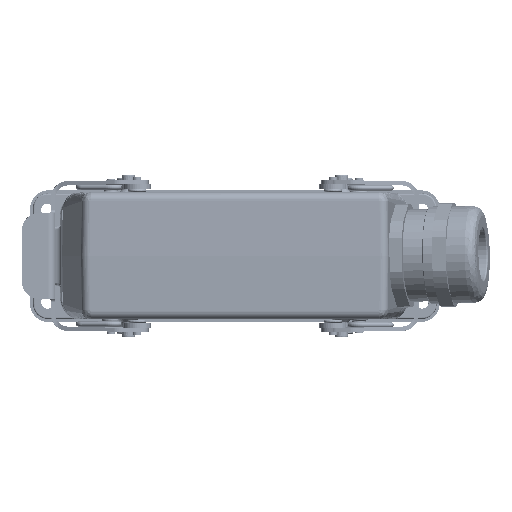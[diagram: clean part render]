
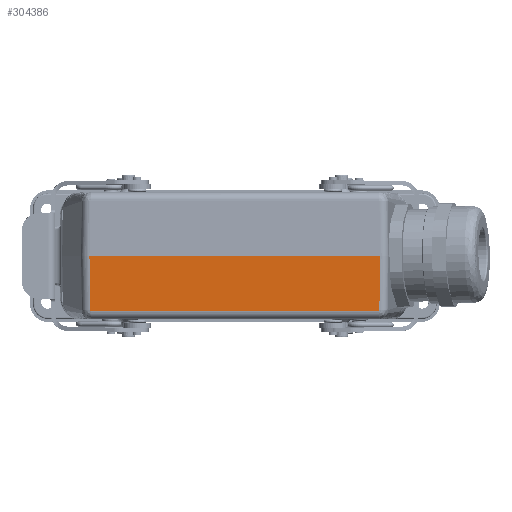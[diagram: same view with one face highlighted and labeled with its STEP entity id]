
A CAD part, top view. The second image highlights one B-rep face of the part: STEP entity #304386.
In plain terms, the highlighted planar face has unit normal (0, -0.018, 1).
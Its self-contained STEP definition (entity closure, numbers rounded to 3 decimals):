
#10601 = CARTESIAN_POINT ( 'NONE',  ( 50.153, -18.917, 59.67 ) ) ;
#27531 = ORIENTED_EDGE ( 'NONE', *, *, #147590, .T. ) ;
#39441 = PLANE ( 'NONE',  #284657 ) ;
#41732 = CARTESIAN_POINT ( 'NONE',  ( -50.153, -18.923, 59.67 ) ) ;
#46966 = ORIENTED_EDGE ( 'NONE', *, *, #217905, .T. ) ;
#48434 = ORIENTED_EDGE ( 'NONE', *, *, #171116, .F. ) ;
#58147 = B_SPLINE_CURVE_WITH_KNOTS ( 'NONE', 3,
 ( #273923, #198134, #277226, #75377, #302516, #150979 ),
 .UNSPECIFIED., .F., .F.,
 ( 4, 2, 4 ),
 ( 0., 0.5, 1. ),
 .UNSPECIFIED. ) ;
#68774 = VERTEX_POINT ( 'NONE', #158403 ) ;
#75377 = CARTESIAN_POINT ( 'NONE',  ( -50.088, -19.04, 59.668 ) ) ;
#76998 = B_SPLINE_CURVE_WITH_KNOTS ( 'NONE', 3,
 ( #163659, #217472, #108261, #162010, #183924, #10601 ),
 .UNSPECIFIED., .F., .F.,
 ( 4, 2, 4 ),
 ( 0., 0.5, 1. ),
 .UNSPECIFIED. ) ;
#80975 = CARTESIAN_POINT ( 'NONE',  ( 50.43, 0., 60. ) ) ;
#89511 = ORIENTED_EDGE ( 'NONE', *, *, #308500, .T. ) ;
#93401 = ORIENTED_EDGE ( 'NONE', *, *, #98488, .F. ) ;
#98488 = EDGE_CURVE ( 'NONE', #185506, #220933, #107861, .T. ) ;
#105365 = VERTEX_POINT ( 'NONE', #197137 ) ;
#107861 = LINE ( 'NONE', #80975, #268257 ) ;
#108261 = CARTESIAN_POINT ( 'NONE',  ( 50.085, -19.039, 59.668 ) ) ;
#131381 = DIRECTION ( 'NONE',  ( -0.015, -1., -0.017 ) ) ;
#145218 = CARTESIAN_POINT ( 'NONE',  ( -52.947, -19.052, 59.667 ) ) ;
#147590 = EDGE_CURVE ( 'NONE', #68774, #219592, #198974, .T. ) ;
#150979 = CARTESIAN_POINT ( 'NONE',  ( -50.021, -19.052, 59.667 ) ) ;
#158403 = CARTESIAN_POINT ( 'NONE',  ( -50.021, -19.052, 59.667 ) ) ;
#162010 = CARTESIAN_POINT ( 'NONE',  ( 50.138, -18.987, 59.669 ) ) ;
#163659 = CARTESIAN_POINT ( 'NONE',  ( 50.015, -19.052, 59.667 ) ) ;
#169461 = CARTESIAN_POINT ( 'NONE',  ( -52.947, 0., 60. ) ) ;
#170630 = EDGE_LOOP ( 'NONE', ( #46966, #93401, #275830, #48434, #89511, #27531 ) ) ;
#171116 = EDGE_CURVE ( 'NONE', #216656, #105365, #197024, .T. ) ;
#183924 = CARTESIAN_POINT ( 'NONE',  ( 50.152, -18.955, 59.669 ) ) ;
#185506 = VERTEX_POINT ( 'NONE', #322382 ) ;
#185850 = DIRECTION ( 'NONE',  ( -1., 0., 0. ) ) ;
#192463 = FACE_OUTER_BOUND ( 'NONE', #170630, .T. ) ;
#197024 = B_SPLINE_CURVE_WITH_KNOTS ( 'NONE', 3,
 ( #307979, #235476, #260725, #259072 ),
 .UNSPECIFIED., .F., .F.,
 ( 4, 4 ),
 ( 0., 1. ),
 .UNSPECIFIED. ) ;
#197137 = CARTESIAN_POINT ( 'NONE',  ( -50.43, 0., 60. ) ) ;
#198134 = CARTESIAN_POINT ( 'NONE',  ( -50.152, -18.959, 59.669 ) ) ;
#198974 = LINE ( 'NONE', #145218, #267404 ) ;
#202130 = EDGE_CURVE ( 'NONE', #185506, #105365, #226592, .T. ) ;
#205298 = CARTESIAN_POINT ( 'NONE',  ( 50.015, -19.052, 59.667 ) ) ;
#216108 = CARTESIAN_POINT ( 'NONE',  ( -52.947, 0., 60. ) ) ;
#216656 = VERTEX_POINT ( 'NONE', #41732 ) ;
#217472 = CARTESIAN_POINT ( 'NONE',  ( 50.052, -19.052, 59.667 ) ) ;
#217905 = EDGE_CURVE ( 'NONE', #219592, #220933, #76998, .T. ) ;
#219592 = VERTEX_POINT ( 'NONE', #205298 ) ;
#220933 = VERTEX_POINT ( 'NONE', #234042 ) ;
#226592 = LINE ( 'NONE', #169461, #299651 ) ;
#234042 = CARTESIAN_POINT ( 'NONE',  ( 50.153, -18.917, 59.67 ) ) ;
#235476 = CARTESIAN_POINT ( 'NONE',  ( -50.245, -12.616, 59.78 ) ) ;
#250170 = DIRECTION ( 'NONE',  ( -1., 0., 0. ) ) ;
#259072 = CARTESIAN_POINT ( 'NONE',  ( -50.43, 0., 60. ) ) ;
#260725 = CARTESIAN_POINT ( 'NONE',  ( -50.338, -6.308, 59.89 ) ) ;
#263324 = DIRECTION ( 'NONE',  ( 0., -0.017, 1. ) ) ;
#267404 = VECTOR ( 'NONE', #298346, 1000. ) ;
#268257 = VECTOR ( 'NONE', #131381, 1000. ) ;
#273923 = CARTESIAN_POINT ( 'NONE',  ( -50.153, -18.923, 59.67 ) ) ;
#275830 = ORIENTED_EDGE ( 'NONE', *, *, #202130, .T. ) ;
#277226 = CARTESIAN_POINT ( 'NONE',  ( -50.138, -18.99, 59.669 ) ) ;
#284657 = AXIS2_PLACEMENT_3D ( 'NONE', #216108, #263324, #185850 ) ;
#298346 = DIRECTION ( 'NONE',  ( 1., 0., 0. ) ) ;
#299651 = VECTOR ( 'NONE', #250170, 1000. ) ;
#302516 = CARTESIAN_POINT ( 'NONE',  ( -50.058, -19.052, 59.667 ) ) ;
#304386 = ADVANCED_FACE ( 'NONE', ( #192463 ), #39441, .T. ) ;
#307979 = CARTESIAN_POINT ( 'NONE',  ( -50.153, -18.923, 59.67 ) ) ;
#308500 = EDGE_CURVE ( 'NONE', #216656, #68774, #58147, .T. ) ;
#322382 = CARTESIAN_POINT ( 'NONE',  ( 50.43, 0., 60. ) ) ;
